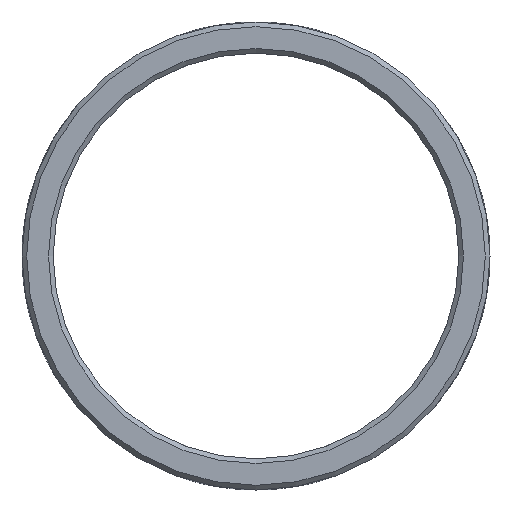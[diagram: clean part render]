
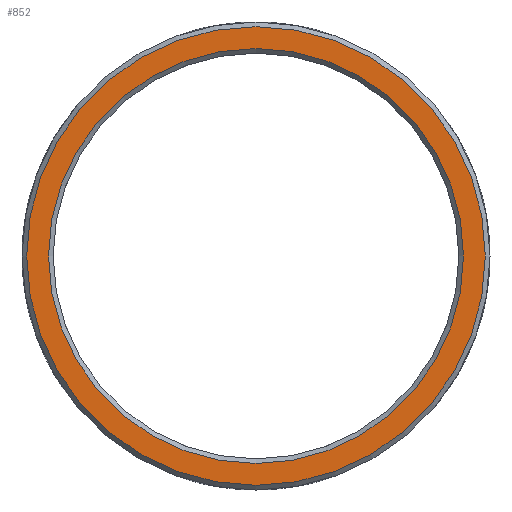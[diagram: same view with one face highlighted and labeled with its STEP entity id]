
A CAD part, front view. The second image highlights one B-rep face of the part: STEP entity #852.
In plain terms, the highlighted planar face has unit normal (0, -1, 0).
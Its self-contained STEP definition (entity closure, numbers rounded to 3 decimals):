
#84=PLANE('',#896);
#158=ORIENTED_EDGE('',*,*,#303,.F.);
#159=ORIENTED_EDGE('',*,*,#299,.T.);
#299=EDGE_CURVE('',#373,#373,#431,.T.);
#303=EDGE_CURVE('',#377,#377,#432,.T.);
#373=VERTEX_POINT('',#1042);
#377=VERTEX_POINT('',#1138);
#431=CIRCLE('',#891,14.7);
#432=CIRCLE('',#894,13.3);
#446=EDGE_LOOP('',(#158));
#447=EDGE_LOOP('',(#159));
#522=FACE_BOUND('',#446,.T.);
#523=FACE_BOUND('',#447,.T.);
#852=ADVANCED_FACE('',(#522,#523),#84,.T.);
#891=AXIS2_PLACEMENT_3D('',#1041,#933,#934);
#894=AXIS2_PLACEMENT_3D('',#1137,#939,#940);
#896=AXIS2_PLACEMENT_3D('',#1141,#943,#944);
#933=DIRECTION('',(0.,-1.,0.));
#934=DIRECTION('',(0.,0.,-1.));
#939=DIRECTION('',(0.,-1.,0.));
#940=DIRECTION('',(0.,0.,-1.));
#943=DIRECTION('',(0.,-1.,0.));
#944=DIRECTION('',(0.,0.,-1.));
#1041=CARTESIAN_POINT('',(0.,-24.,0.));
#1042=CARTESIAN_POINT('',(0.,-24.,-14.7));
#1137=CARTESIAN_POINT('',(0.,-24.,0.));
#1138=CARTESIAN_POINT('',(0.,-24.,-13.3));
#1141=CARTESIAN_POINT('',(13.,-24.,0.));
